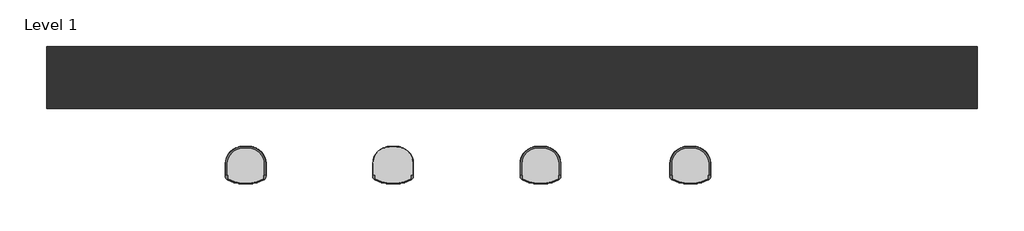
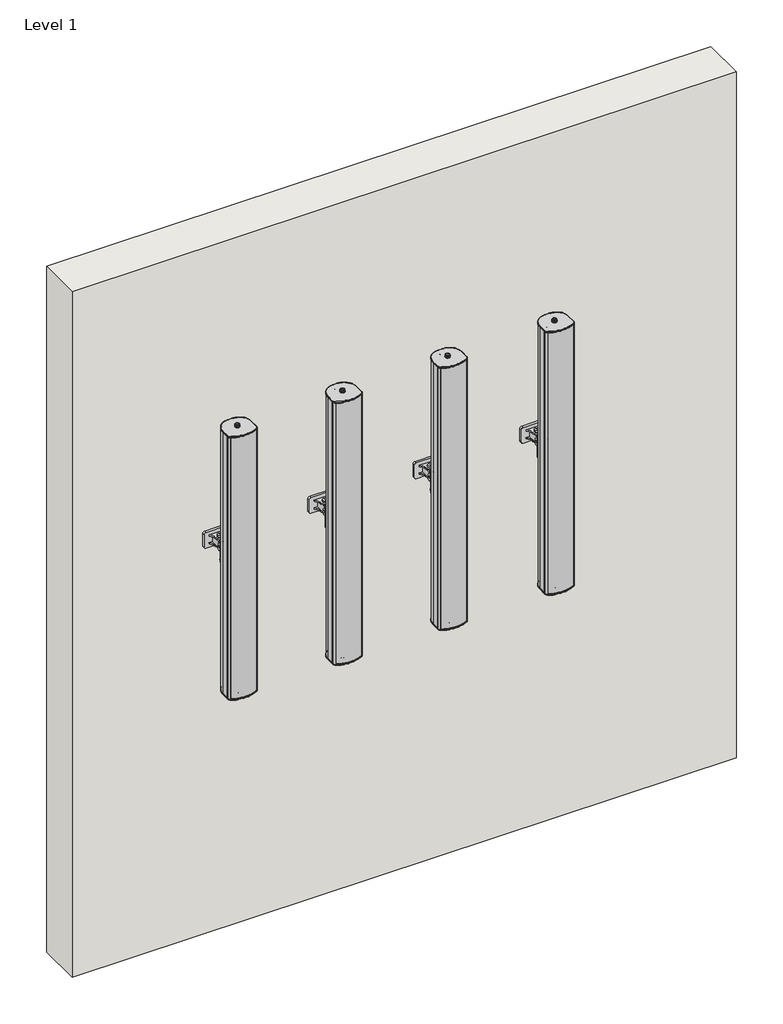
# One storey: 4 proxies, 1 wall.
"""IFC4 building model written with IfcOpenShell, lengths in millimetres."""

from ifc_helpers import new_model, si_unit, origin, origin_with_axes, place, context, project, spatial, polyline, outline, extrude, transform, mapped, element, save
from components import communication_devices_d0b5417b, communication_devices_4087b9b7

model = new_model("IFC4")

# Units and contexts
model_context = context("Model", 3, world=origin())
ifc_project = project(units=[si_unit("LENGTHUNIT", "METRE", prefix="MILLI")], contexts=[model_context])

# Site, building, storey
site = spatial("IfcSite", under=ifc_project)
building = spatial("IfcBuilding", under=site)
storey = spatial("IfcBuildingStorey", under=building, Name="Level 1", Elevation=0.0)

# Proxies
placement = place(None, origin())
communication_devices_shape = communication_devices_d0b5417b(model_context)
communication_devices_2_shape = communication_devices_4087b9b7(model_context)
element("IfcBuildingElementProxy", 1, Name="TS-C 50-1000_T-EN54 : TS-C 50-1000/T-EN54", ObjectType="TS-C 50-1000_T-EN54 : TS-C 50-1000/T-EN54", at=placement, inside=storey, context=model_context, shape_type="MappedRepresentation", body=[
    mapped(communication_devices_shape, transform((2322.1473575, 1867.9266815, 952.5), x_axis=(1.0, 0.0, 0.0), y_axis=(0.0, 1.0, 0.0), z_axis=(0.0, 0.0, 1.0))),
    mapped(communication_devices_2_shape, transform((2322.1473575, 1867.9266815, 952.5), x_axis=(1.0, 0.0, 0.0), y_axis=(0.0, 1.0, 0.0), z_axis=(0.0, 0.0, 1.0))),
])
element("IfcBuildingElementProxy", 2, Name="TS-C 50-1000_T-EN54 : TS-C 50-1000/T-EN54", ObjectType="TS-C 50-1000_T-EN54 : TS-C 50-1000/T-EN54", at=placement, inside=storey, context=model_context, shape_type="MappedRepresentation", body=[
    mapped(communication_devices_shape, transform((2684.0973575, 1867.9266815, 952.5), x_axis=(1.0, 0.0, 0.0), y_axis=(0.0, 1.0, 0.0), z_axis=(0.0, 0.0, 1.0))),
    mapped(communication_devices_2_shape, transform((2684.0973575, 1867.9266815, 952.5), x_axis=(1.0, 0.0, 0.0), y_axis=(0.0, 1.0, 0.0), z_axis=(0.0, 0.0, 1.0))),
])
element("IfcBuildingElementProxy", 3, Name="TS-C 50-1000_T-EN54 : TS-C 50-1000/T-EN54", ObjectType="TS-C 50-1000_T-EN54 : TS-C 50-1000/T-EN54", at=placement, inside=storey, context=model_context, shape_type="MappedRepresentation", body=[
    mapped(communication_devices_shape, transform((3046.0473575, 1867.9266815, 952.5), x_axis=(1.0, 0.0, 0.0), y_axis=(0.0, 1.0, 0.0), z_axis=(0.0, 0.0, 1.0))),
    mapped(communication_devices_2_shape, transform((3046.0473575, 1867.9266815, 952.5), x_axis=(1.0, 0.0, 0.0), y_axis=(0.0, 1.0, 0.0), z_axis=(0.0, 0.0, 1.0))),
])
element("IfcBuildingElementProxy", 4, Name="TS-C 50-1000_T-EN54 : TS-C 50-1000/T-EN54", ObjectType="TS-C 50-1000_T-EN54 : TS-C 50-1000/T-EN54", at=placement, inside=storey, context=model_context, shape_type="MappedRepresentation", body=[
    mapped(communication_devices_shape, transform((3413.9973575, 1867.9266815, 952.5), x_axis=(1.0, 0.0, 0.0), y_axis=(0.0, 1.0, 0.0), z_axis=(0.0, 0.0, 1.0))),
    mapped(communication_devices_2_shape, transform((3413.9973575, 1867.9266815, 952.5), x_axis=(1.0, 0.0, 0.0), y_axis=(0.0, 1.0, 0.0), z_axis=(0.0, 0.0, 1.0))),
])

# Wall
element("IfcWall", 5, ObjectType="Exterior - 6\" Generic", at=placement, inside=storey, context=model_context, shape_type="SweptSolid", body=[
    extrude(outline(polyline([(4119.1973575, 1963.1766815), (1833.1973575, 1963.1766815), (1833.1973575, 2115.5766815), (4119.1973575, 2115.5766815), (4119.1973575, 1963.1766815)])), origin_with_axes(), (0.0, 0.0, 1.0), 2495.55),
])

save(model, "model.ifc")
